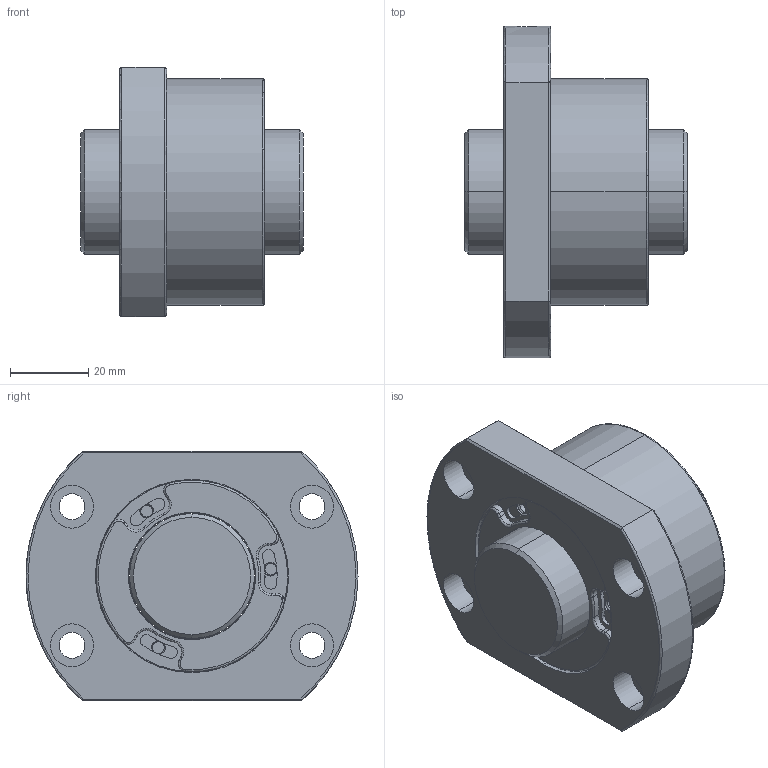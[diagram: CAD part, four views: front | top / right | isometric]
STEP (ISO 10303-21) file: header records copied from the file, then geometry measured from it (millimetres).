
FILE_DESCRIPTION (( 'STEP AP203' ), '1' );
FILE_NAME ('SFVSR03205C1D-C.STEP', '2020-06-17T05:13:08', ( '' ), ( '' ), 'SwSTEP 2.0', 'SolidWorks 2013', '' );
FILE_SCHEMA (( 'CONFIG_CONTROL_DESIGN' ));
Length unit declared in the file: millimetre
Products named in the file (1): SFVSR03205C1D-C
Bounding box: 57 x 85 x 64 mm (x, y, z)
Volume: 130418.7 mm3; surface area: 31339.5 mm2
Topology: 2 solids, 2 shells, 300 faces, 714 edges, 440 vertices
Faces by surface type: cylinder 152, plane 78, bspline 54, cone 16
Entity records: 10405 total; most frequent: CARTESIAN_POINT 3371, DIRECTION 1556, ORIENTED_EDGE 1428, EDGE_CURVE 714, AXIS2_PLACEMENT_3D 665, VERTEX_POINT 440, CIRCLE 418, EDGE_LOOP 336
